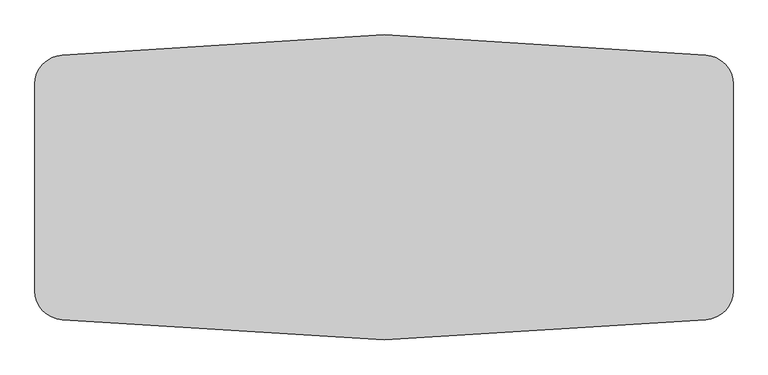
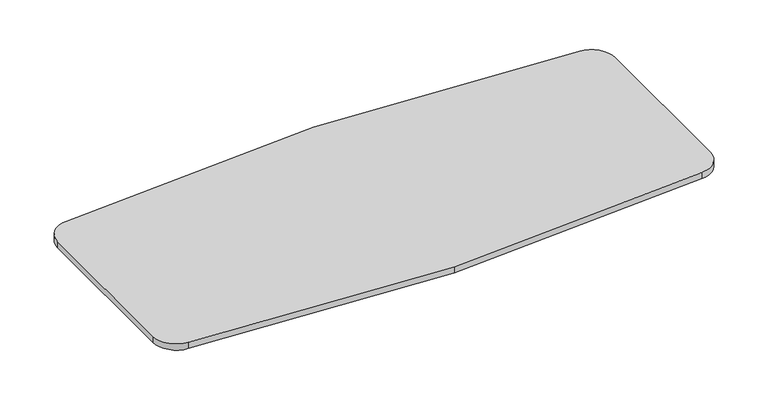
"""IFC4 building model written with IfcOpenShell, lengths in millimetres: furniture geometry, Steelcase - Answer Solution - Universal Table - Hex Conference : 42D x 96W."""

from ifc_helpers import new_model, si_unit, point, frame, frame_2d, origin, place, context, project, spatial, polyline, circle_curve, trimmed, segment, composite_curve, outline, extrude, source, transform, mapped, element, save


def furniture_6a103a17(model_context):
    return source(origin(), model_context, "Body", "SweptSolid", [
        extrude(outline(composite_curve([segment(trimmed(circle_curve(frame_2d((98.425, -302.7314557)), 101.6), [point((-3.175, -302.7314557))], [point((92.789246, -201.2878838))], False, "CARTESIAN"), True, "CONTINUOUS"), segment(polyline([(92.789246, -201.2878838), (1216.025, -130.4192308), (2339.260754, -201.2878838)]), True, "CONTINUOUS"), segment(trimmed(circle_curve(frame_2d((2333.625, -302.7314557)), 101.6), [point((2339.260754, -201.2878838))], [point((2435.225, -302.7314557))], False, "CARTESIAN"), True, "CONTINUOUS"), segment(polyline([(2435.225, -302.7314557), (2435.225, -1024.9070059)]), True, "CONTINUOUS"), segment(trimmed(circle_curve(frame_2d((2333.625, -1024.9070059)), 101.6), [point((2435.225, -1024.9070059))], [point((2339.260754, -1126.3505778))], False, "CARTESIAN"), True, "CONTINUOUS"), segment(polyline([(2339.260754, -1126.3505778), (1216.025, -1197.2192308), (92.789246, -1126.3505778)]), True, "CONTINUOUS"), segment(trimmed(circle_curve(frame_2d((98.425, -1024.9070059)), 101.6), [point((92.789246, -1126.3505778))], [point((-3.175, -1024.9070059))], False, "CARTESIAN"), True, "CONTINUOUS"), segment(polyline([(-3.175, -1024.9070059), (-3.175, -302.7314557)]), True, "CONTINUOUS")], self_intersect=False)), frame((0.0, 0.0, 668.274), z_axis=(0.0, 0.0, 1.0), x_axis=(1.0, 0.0, 0.0)), (0.0, 0.0, 1.0), 28.575),
    ])


if __name__ == "__main__":
    model = new_model("IFC4")
    model_context = context("Model", 3, world=origin())
    ifc_project = project(units=[si_unit("LENGTHUNIT", "METRE", prefix="MILLI")], contexts=[model_context])
    site = spatial("IfcSite", under=ifc_project)
    building = spatial("IfcBuilding", under=site)
    placement = place(None, origin())
    furniture_shape = furniture_6a103a17(model_context)
    element("IfcFurniture", 1, ObjectType="Steelcase - Answer Solution - Universal Table - Hex Conference : 42D x 96W", at=placement, inside=building, context=model_context, shape_type="MappedRepresentation", body=[
        mapped(furniture_shape, transform((0.0, 0.0, 0.0), x_axis=(1.0, 0.0, 0.0), y_axis=(0.0, 1.0, 0.0), z_axis=(0.0, 0.0, 1.0))),
    ])
    save(model, "model.ifc")
